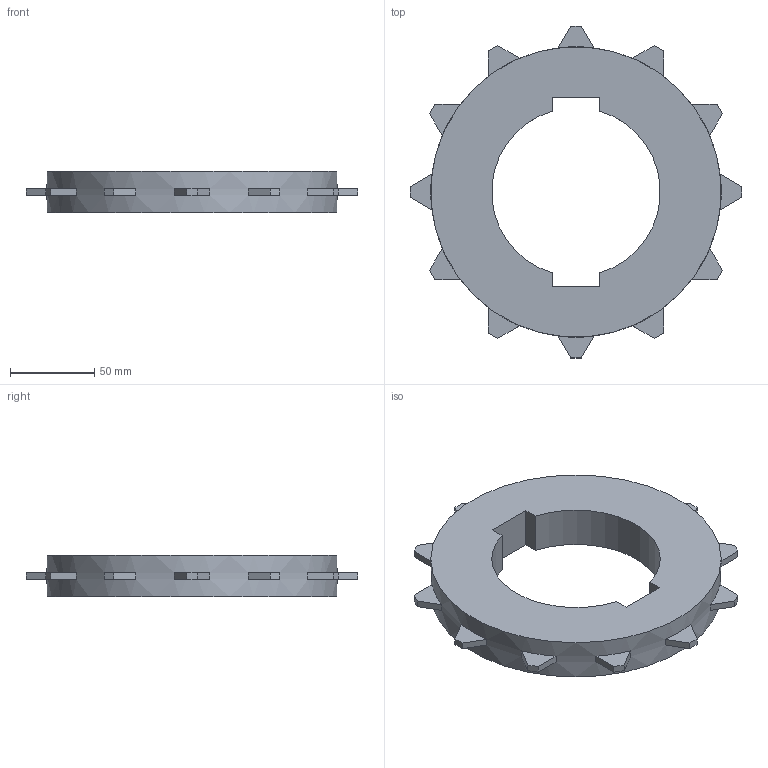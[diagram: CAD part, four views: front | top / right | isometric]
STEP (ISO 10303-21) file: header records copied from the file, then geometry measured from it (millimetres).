
FILE_DESCRIPTION((''),'2;1');
FILE_NAME('S400_SPROCKET_78X100_RND','2008-12-12T',('jmumphre'),(''),'PRO/ENGINEER BY PARAMETRIC TECHNOLOGY CORPORATION, 2008150','PRO/ENGINEER BY PARAMETRIC TECHNOLOGY CORPORATION, 2008150','');
FILE_SCHEMA(('CONFIG_CONTROL_DESIGN'));
Length unit declared in the file: inch
Products named in the file (1): S400_SPROCKET_78X100_RND
Bounding box: 196.92 x 196.92 x 24.89 mm (x, y, z)
Volume: 383789.8 mm3; surface area: 57055.1 mm2
Topology: 1 solids, 1 shells, 72 faces, 174 edges, 116 vertices
Faces by surface type: plane 68, cylinder 4
Entity records: 2134 total; most frequent: CARTESIAN_POINT 362, DIRECTION 350, ORIENTED_EDGE 348, EDGE_CURVE 174, VECTOR 142, LINE 142, VERTEX_POINT 116, AXIS2_PLACEMENT_3D 104
